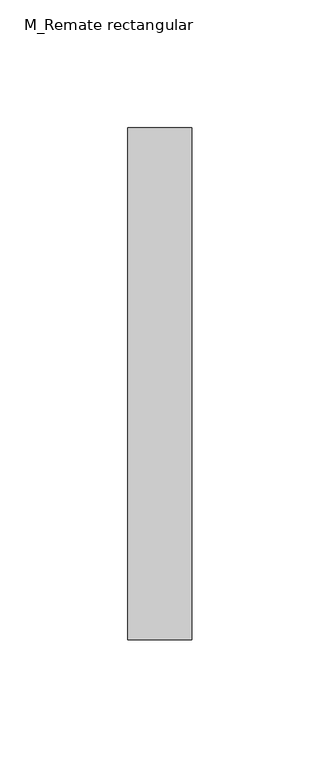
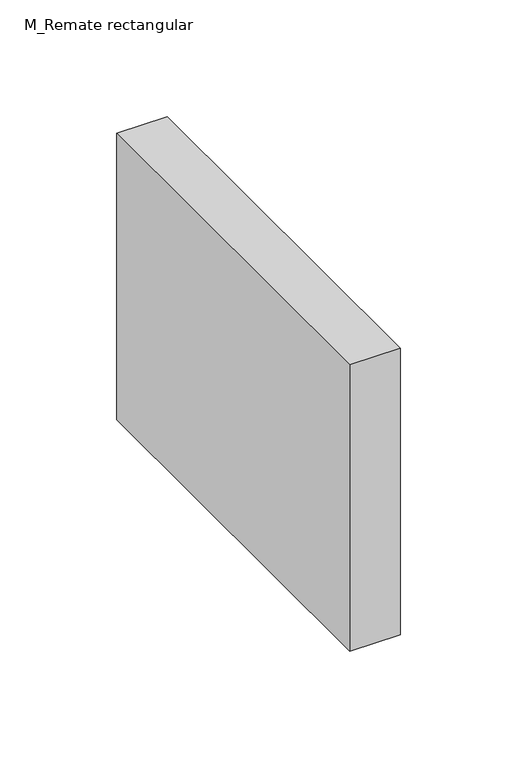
"""IFC4 building model written with IfcOpenShell, lengths in millimetres: duct fitting geometry, M_Remate rectangular : Estándar."""

from ifc_helpers import new_model, si_unit, frame, origin, place, context, project, spatial, polyline, outline, extrude, source, transform, mapped, element, save


def m_remate_rectangular_2162aa4e(model_context):
    return source(origin(), model_context, "Body", "SweptSolid", [
        extrude(outline(polyline([(0.0, -100.0), (0.0, 100.0), (25.0, 100.0), (25.0, -100.0), (0.0, -100.0)])), frame((0.0, 0.0, -75.0), z_axis=(0.0, 0.0, 1.0), x_axis=(1.0, 0.0, 0.0)), (0.0, 0.0, 1.0), 150.0),
    ])


if __name__ == "__main__":
    model = new_model("IFC4")
    model_context = context("Model", 3, world=origin())
    ifc_project = project(units=[si_unit("LENGTHUNIT", "METRE", prefix="MILLI")], contexts=[model_context])
    site = spatial("IfcSite", under=ifc_project)
    building = spatial("IfcBuilding", under=site)
    placement = place(None, origin())
    m_remate_rectangular_shape = m_remate_rectangular_2162aa4e(model_context)
    element("IfcDuctFitting", 1, ObjectType="M_Remate rectangular : Estándar", at=placement, inside=building, context=model_context, shape_type="MappedRepresentation", body=[
        mapped(m_remate_rectangular_shape, transform((0.0, 0.0, 0.0), x_axis=(1.0, 0.0, 0.0), y_axis=(0.0, 1.0, 0.0), z_axis=(0.0, 0.0, 1.0))),
    ])
    save(model, "model.ifc")
